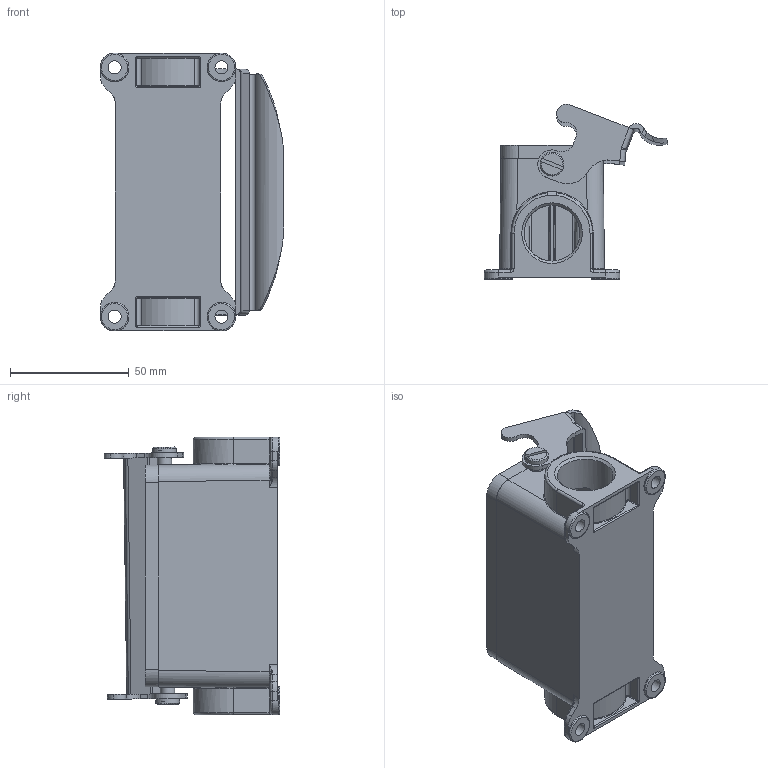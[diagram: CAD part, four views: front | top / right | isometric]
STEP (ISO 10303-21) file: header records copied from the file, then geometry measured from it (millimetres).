
FILE_DESCRIPTION (( 'STEP AP203' ), '1' );
FILE_NAME ('H16B-SGR-LB-M25.STEP', '2023-06-09T03:01:45', ( '' ), ( '' ), 'SwSTEP 2.0', 'SolidWorks 2016', '' );
FILE_SCHEMA (( 'CONFIG_CONTROL_DESIGN' ));
Length unit declared in the file: millimetre
Products named in the file (1): H16B-SGR-LB-M25
Bounding box: 77.19 x 73.88 x 117 mm (x, y, z)
Volume: 98401.9 mm3; surface area: 53996.8 mm2
Topology: 1 solids, 3 shells, 503 faces, 1264 edges, 774 vertices
Faces by surface type: cylinder 171, plane 151, bspline 99, torus 39, cone 28, sphere 15
Full cylindrical faces by diameter (mm): 5.5 x4, 6 x2, 6.2 x2, 10 x2, 12 x4, 23.5 x1, 24 x1
Entity records: 20445 total; most frequent: CARTESIAN_POINT 9586, ORIENTED_EDGE 2392, DIRECTION 1988, EDGE_CURVE 1196, AXIS2_PLACEMENT_3D 746, VERTEX_POINT 746, EDGE_LOOP 566, FACE_OUTER_BOUND 519
